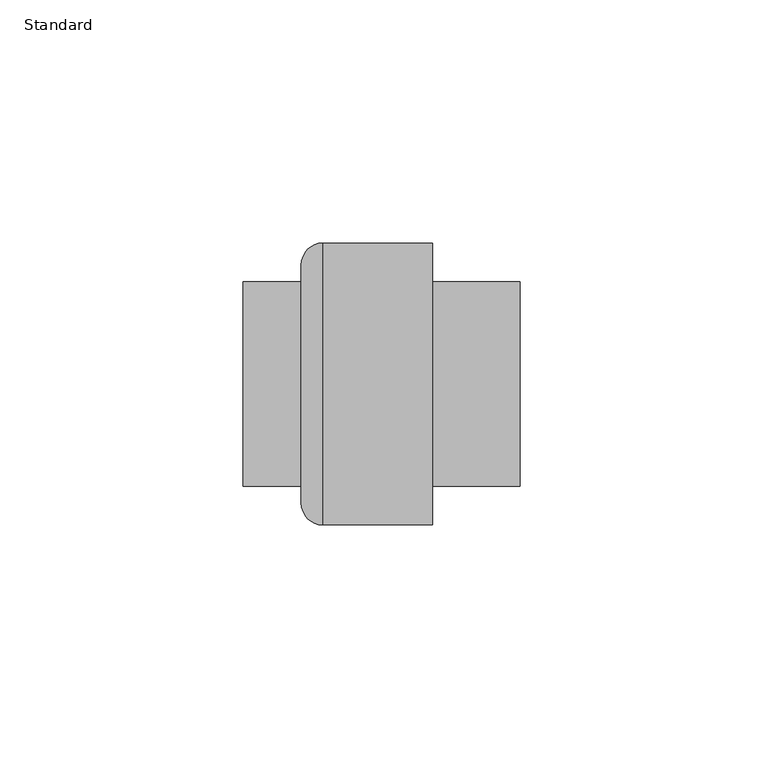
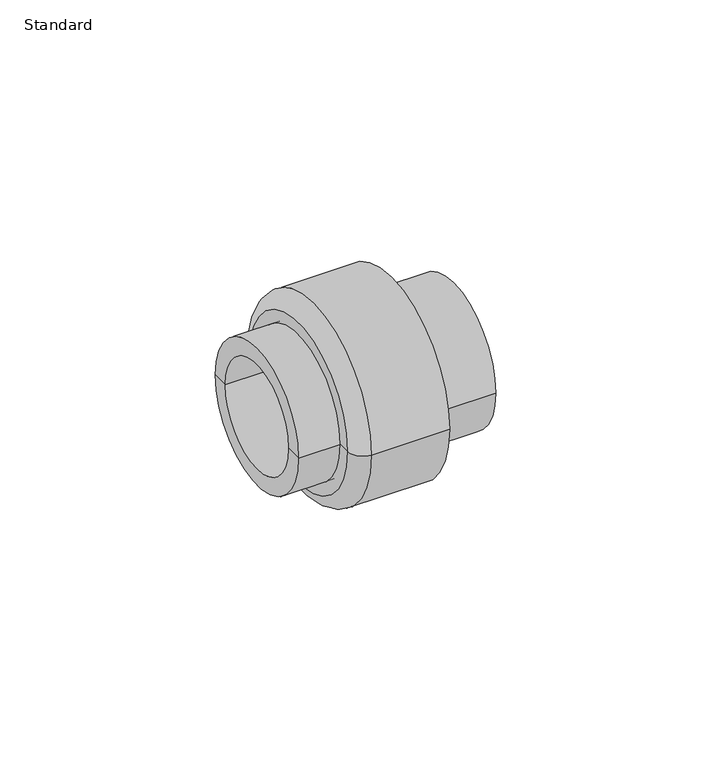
"""IFC4 building model written with IfcOpenShell, lengths in millimetres: pipe fitting geometry, Durapipe_PipeFitting_PVC_SocketUnions : Standard."""

from ifc_helpers import new_model, si_unit, point, frame, origin, place, context, project, spatial, polyline, circle_curve, ellipse_curve, trimmed, source, transform, mapped, element, save
from ifc_brep_helpers import plane_surface, cylinder_surface, revolved_surface, advanced_brep


def standard_06543b70(model_context):
    return source(origin(), model_context, "Body", "AdvancedBrep", [
        advanced_brep(
        [(-20.5, -21.0, 0.0), (-20.5, 21.0, 0.0), (-20.5, 24.5, 0.0), (-20.5, -24.5, 0.0), (6.5, -29.0, 0.0), (6.5, 29.0, 0.0), (6.5, 21.0, 0.0), (6.5, -21.0, 0.0), (-16.0, -29.0, 0.0), (-16.0, 29.0, 0.0)],
        [
            (0, 1, circle_curve(frame((-20.5, 0.0, 0.0), z_axis=(1.0, 0.0, 0.0), x_axis=(0.0, 1.0, 0.0)), 21.0)),
            (1, 2),
            (2, 3, circle_curve(frame((-20.5, 0.0, 0.0), z_axis=(-1.0, 0.0, 0.0), x_axis=(0.0, 1.0, 0.0)), 24.5)),
            (3, 0),
            (1, 0, circle_curve(frame((-20.5, 0.0, 0.0), z_axis=(1.0, 0.0, 0.0), x_axis=(0.0, 1.0, 0.0)), 21.0)),
            (3, 2, circle_curve(frame((-20.5, 0.0, 0.0), z_axis=(-1.0, 0.0, 0.0), x_axis=(0.0, 1.0, 0.0)), 24.5)),
            (4, 5, circle_curve(frame((6.5, 0.0, 0.0), z_axis=(1.0, 0.0, 0.0), x_axis=(0.0, 1.0, 0.0)), 29.0)),
            (5, 6),
            (6, 7, circle_curve(frame((6.5, 0.0, 0.0), z_axis=(-1.0, 0.0, 0.0), x_axis=(0.0, 1.0, 0.0)), 21.0)),
            (7, 4),
            (5, 4, circle_curve(frame((6.5, 0.0, 0.0), z_axis=(1.0, 0.0, 0.0), x_axis=(0.0, 1.0, 0.0)), 29.0)),
            (7, 6, circle_curve(frame((6.5, 0.0, 0.0), z_axis=(-1.0, 0.0, 0.0), x_axis=(0.0, 1.0, 0.0)), 21.0)),
            (8, 9, circle_curve(frame((-16.0, 0.0, 0.0), z_axis=(1.0, 0.0, 0.0), x_axis=(0.0, 1.0, 0.0)), 29.0)),
            (9, 5),
            (4, 8),
            (9, 8, circle_curve(frame((-16.0, 0.0, 0.0), z_axis=(1.0, 0.0, 0.0), x_axis=(0.0, 1.0, 0.0)), 29.0)),
            (2, 9, circle_curve(frame((-16.0, 24.5, 0.0), z_axis=(0.0, 0.0, -1.0), x_axis=(1.0, 0.0, 0.0)), 4.5)),
            (8, 3, circle_curve(frame((-16.0, -24.5, 0.0), z_axis=(0.0, 0.0, -1.0), x_axis=(1.0, 0.0, 0.0)), 4.5)),
            (6, 1),
            (0, 7),
        ],
        [
            plane_surface(frame((-20.5, 0.0, 0.0), z_axis=(-1.0, 0.0, 0.0), x_axis=(0.0, 1.0, 0.0))),
            plane_surface(frame((6.5, 0.0, 0.0), z_axis=(1.0, 0.0, 0.0), x_axis=(0.0, 1.0, 0.0))),
            cylinder_surface(frame((2000.0, 0.0, 0.0), z_axis=(-1.0, 0.0, 0.0), x_axis=(0.0, 1.0, 0.0)), 29.0),
            revolved_surface(trimmed(ellipse_curve(frame((-16.0, 24.5, 0.0), z_axis=(0.0, 0.0, 1.0), x_axis=(1.0, 0.0, 0.0)), 4.5, 4.5), [point((-16.0, 29.0, 0.0))], [point((-20.5, 24.5, 0.0))], True, "CARTESIAN"), (2000.0, 0.0, 0.0), (-1.0, 0.0, 0.0)),
            revolved_surface(polyline([(-20.5, 21.0, 0.0), (6.5, 21.0, 0.0)]), (2000.0, 0.0, 0.0), (-1.0, 0.0, 0.0)),
        ],
        [
            (0, [[1, 2, 3, 4]]),
            (0, [[5, -4, 6, -2]]),
            (1, [[7, 8, 9, 10]]),
            (1, [[11, -10, 12, -8]]),
            (2, [[13, 14, -7, 15]]),
            (2, [[16, -15, -11, -14]]),
            (3, [[-3, 17, -13, 18]]),
            (3, [[-6, -18, -16, -17]]),
            (4, [[-9, 19, -1, 20]]),
            (4, [[-12, -20, -5, -19]]),
        ],
    ),
        advanced_brep(
        [(-10.5, -16.0, 0.0), (-10.5, 16.0, 0.0), (-32.5, 16.0, 0.0), (-32.5, -16.0, 0.0), (-10.5, 0.0, 0.0), (2.5, -16.0, 0.0), (2.5, 16.0, 0.0), (2.5, 0.0, 0.0), (-32.5, -21.0, 0.0), (-32.5, 21.0, 0.0), (24.5, 21.0, 0.0), (24.5, -21.0, 0.0), (24.5, -16.0, 0.0), (24.5, 16.0, 0.0)],
        [
            (0, 1, circle_curve(frame((-10.5, 0.0, 0.0), z_axis=(1.0, 0.0, 0.0), x_axis=(0.0, 1.0, 0.0)), 16.0)),
            (1, 2),
            (2, 3, circle_curve(frame((-32.5, 0.0, 0.0), z_axis=(-1.0, 0.0, 0.0), x_axis=(0.0, 1.0, 0.0)), 16.0)),
            (3, 0),
            (1, 0, circle_curve(frame((-10.5, 0.0, 0.0), z_axis=(1.0, 0.0, 0.0), x_axis=(0.0, 1.0, 0.0)), 16.0)),
            (3, 2, circle_curve(frame((-32.5, 0.0, 0.0), z_axis=(-1.0, 0.0, 0.0), x_axis=(0.0, 1.0, 0.0)), 16.0)),
            (4, 1),
            (0, 4),
            (5, 6, circle_curve(frame((2.5, 0.0, 0.0), z_axis=(1.0, 0.0, 0.0), x_axis=(0.0, 1.0, 0.0)), 16.0)),
            (6, 7),
            (7, 5),
            (6, 5, circle_curve(frame((2.5, 0.0, 0.0), z_axis=(1.0, 0.0, 0.0), x_axis=(0.0, 1.0, 0.0)), 16.0)),
            (8, 9, circle_curve(frame((-32.5, 0.0, 0.0), z_axis=(1.0, 0.0, 0.0), x_axis=(0.0, 1.0, 0.0)), 21.0)),
            (9, 10),
            (10, 11, circle_curve(frame((24.5, 0.0, 0.0), z_axis=(-1.0, 0.0, 0.0), x_axis=(0.0, 1.0, 0.0)), 21.0)),
            (11, 8),
            (9, 8, circle_curve(frame((-32.5, 0.0, 0.0), z_axis=(1.0, 0.0, 0.0), x_axis=(0.0, 1.0, 0.0)), 21.0)),
            (11, 10, circle_curve(frame((24.5, 0.0, 0.0), z_axis=(-1.0, 0.0, 0.0), x_axis=(0.0, 1.0, 0.0)), 21.0)),
            (2, 9),
            (8, 3),
            (12, 13, circle_curve(frame((24.5, 0.0, 0.0), z_axis=(1.0, 0.0, 0.0), x_axis=(0.0, 1.0, 0.0)), 16.0)),
            (13, 6),
            (5, 12),
            (13, 12, circle_curve(frame((24.5, 0.0, 0.0), z_axis=(1.0, 0.0, 0.0), x_axis=(0.0, 1.0, 0.0)), 16.0)),
            (10, 13),
            (12, 11),
        ],
        [
            revolved_surface(polyline([(-32.5, 16.0, 0.0), (-10.5, 16.0, 0.0)]), (2000.0, 0.0, 0.0), (-1.0, 0.0, 0.0)),
            plane_surface(frame((-10.5, 0.0, 0.0), z_axis=(-1.0, 0.0, 0.0), x_axis=(0.0, 1.0, 0.0))),
            plane_surface(frame((2.5, 0.0, 0.0), z_axis=(1.0, 0.0, 0.0), x_axis=(0.0, 1.0, 0.0))),
            cylinder_surface(frame((2000.0, 0.0, 0.0), z_axis=(-1.0, 0.0, 0.0), x_axis=(0.0, 1.0, 0.0)), 21.0),
            plane_surface(frame((-32.5, 0.0, 0.0), z_axis=(-1.0, 0.0, 0.0), x_axis=(0.0, 1.0, 0.0))),
            revolved_surface(polyline([(2.5, 16.0, 0.0), (24.5, 16.0, 0.0)]), (2000.0, 0.0, 0.0), (-1.0, 0.0, 0.0)),
            plane_surface(frame((24.5, 0.0, 0.0), z_axis=(1.0, 0.0, 0.0), x_axis=(0.0, 1.0, 0.0))),
        ],
        [
            (0, [[1, 2, 3, 4]]),
            (0, [[5, -4, 6, -2]]),
            (1, [[7, -1, 8]]),
            (1, [[-8, -5, -7]]),
            (2, [[9, 10, 11]]),
            (2, [[12, -11, -10]]),
            (3, [[13, 14, 15, 16]]),
            (3, [[17, -16, 18, -14]]),
            (4, [[-3, 19, -13, 20]]),
            (4, [[-6, -20, -17, -19]]),
            (5, [[21, 22, -9, 23]]),
            (5, [[24, -23, -12, -22]]),
            (6, [[-15, 25, -21, 26]]),
            (6, [[-18, -26, -24, -25]]),
        ],
    ),
    ])


if __name__ == "__main__":
    model = new_model("IFC4")
    model_context = context("Model", 3, world=origin())
    ifc_project = project(units=[si_unit("LENGTHUNIT", "METRE", prefix="MILLI")], contexts=[model_context])
    site = spatial("IfcSite", under=ifc_project)
    building = spatial("IfcBuilding", under=site)
    placement = place(None, origin())
    standard_shape = standard_06543b70(model_context)
    element("IfcPipeFitting", 1, ObjectType="Durapipe_PipeFitting_PVC_SocketUnions : Standard", at=placement, inside=building, context=model_context, shape_type="MappedRepresentation", body=[
        mapped(standard_shape, transform((0.0, 0.0, 0.0), x_axis=(1.0, 0.0, 0.0), y_axis=(0.0, 1.0, 0.0), z_axis=(0.0, 0.0, 1.0))),
    ])
    save(model, "model.ifc")
